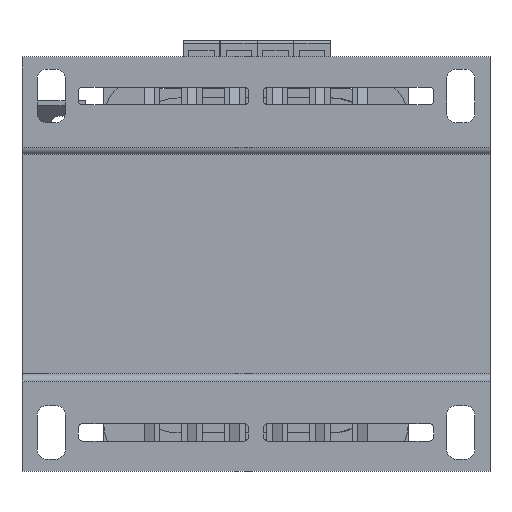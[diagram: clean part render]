
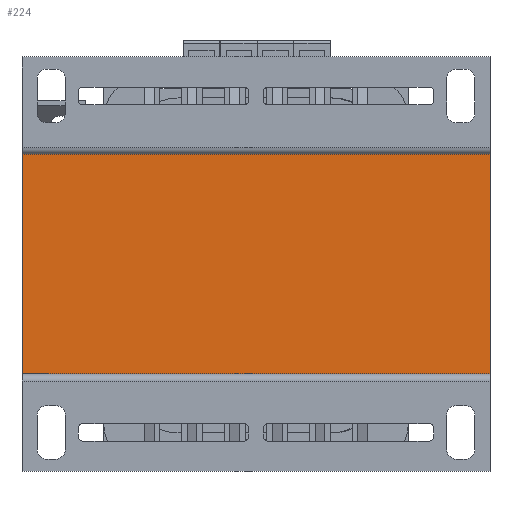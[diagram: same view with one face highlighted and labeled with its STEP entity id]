
A CAD part, front view. The second image highlights one B-rep face of the part: STEP entity #224.
In plain terms, the highlighted planar face has unit normal (0, -1, 0).
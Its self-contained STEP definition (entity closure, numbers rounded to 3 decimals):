
#108 = EDGE_CURVE('',#109,#111,#113,.T.);
#109 = VERTEX_POINT('',#110);
#110 = CARTESIAN_POINT('',(0.,0.,0.));
#111 = VERTEX_POINT('',#112);
#112 = CARTESIAN_POINT('',(0.,0.,45.));
#113 = SURFACE_CURVE('',#114,(#118,#130),.PCURVE_S1.);
#114 = LINE('',#115,#116);
#115 = CARTESIAN_POINT('',(0.,0.,0.));
#116 = VECTOR('',#117,1.);
#117 = DIRECTION('',(0.,0.,1.));
#118 = PCURVE('',#119,#124);
#119 = PLANE('',#120);
#120 = AXIS2_PLACEMENT_3D('',#121,#122,#123);
#121 = CARTESIAN_POINT('',(0.,0.,0.));
#122 = DIRECTION('',(1.,0.,0.));
#123 = DIRECTION('',(0.,0.,1.));
#124 = DEFINITIONAL_REPRESENTATION('',(#125),#129);
#125 = LINE('',#126,#127);
#126 = CARTESIAN_POINT('',(0.,0.));
#127 = VECTOR('',#128,1.);
#128 = DIRECTION('',(1.,0.));
#129 = ( GEOMETRIC_REPRESENTATION_CONTEXT(2) 
PARAMETRIC_REPRESENTATION_CONTEXT() REPRESENTATION_CONTEXT('2D SPACE',''
  ) );
#130 = PCURVE('',#131,#136);
#131 = PLANE('',#132);
#132 = AXIS2_PLACEMENT_3D('',#133,#134,#135);
#133 = CARTESIAN_POINT('',(0.,0.,0.));
#134 = DIRECTION('',(0.,1.,0.));
#135 = DIRECTION('',(0.,0.,1.));
#136 = DEFINITIONAL_REPRESENTATION('',(#137),#141);
#137 = LINE('',#138,#139);
#138 = CARTESIAN_POINT('',(0.,0.));
#139 = VECTOR('',#140,1.);
#140 = DIRECTION('',(1.,0.));
#141 = ( GEOMETRIC_REPRESENTATION_CONTEXT(2) 
PARAMETRIC_REPRESENTATION_CONTEXT() REPRESENTATION_CONTEXT('2D SPACE',''
  ) );
#159 = PLANE('',#160);
#160 = AXIS2_PLACEMENT_3D('',#161,#162,#163);
#161 = CARTESIAN_POINT('',(0.,0.,0.));
#162 = DIRECTION('',(0.,0.,1.));
#163 = DIRECTION('',(1.,0.,0.));
#213 = PLANE('',#214);
#214 = AXIS2_PLACEMENT_3D('',#215,#216,#217);
#215 = CARTESIAN_POINT('',(0.,0.,45.));
#216 = DIRECTION('',(0.,0.,1.));
#217 = DIRECTION('',(1.,0.,0.));
#224 = ADVANCED_FACE('',(#225),#131,.F.);
#225 = FACE_BOUND('',#226,.F.);
#226 = EDGE_LOOP('',(#227,#250,#251,#274));
#227 = ORIENTED_EDGE('',*,*,#228,.F.);
#228 = EDGE_CURVE('',#109,#229,#231,.T.);
#229 = VERTEX_POINT('',#230);
#230 = CARTESIAN_POINT('',(96.,0.,0.));
#231 = SURFACE_CURVE('',#232,(#236,#243),.PCURVE_S1.);
#232 = LINE('',#233,#234);
#233 = CARTESIAN_POINT('',(0.,0.,0.));
#234 = VECTOR('',#235,1.);
#235 = DIRECTION('',(1.,0.,0.));
#236 = PCURVE('',#131,#237);
#237 = DEFINITIONAL_REPRESENTATION('',(#238),#242);
#238 = LINE('',#239,#240);
#239 = CARTESIAN_POINT('',(0.,0.));
#240 = VECTOR('',#241,1.);
#241 = DIRECTION('',(0.,1.));
#242 = ( GEOMETRIC_REPRESENTATION_CONTEXT(2) 
PARAMETRIC_REPRESENTATION_CONTEXT() REPRESENTATION_CONTEXT('2D SPACE',''
  ) );
#243 = PCURVE('',#159,#244);
#244 = DEFINITIONAL_REPRESENTATION('',(#245),#249);
#245 = LINE('',#246,#247);
#246 = CARTESIAN_POINT('',(0.,0.));
#247 = VECTOR('',#248,1.);
#248 = DIRECTION('',(1.,0.));
#249 = ( GEOMETRIC_REPRESENTATION_CONTEXT(2) 
PARAMETRIC_REPRESENTATION_CONTEXT() REPRESENTATION_CONTEXT('2D SPACE',''
  ) );
#250 = ORIENTED_EDGE('',*,*,#108,.T.);
#251 = ORIENTED_EDGE('',*,*,#252,.T.);
#252 = EDGE_CURVE('',#111,#253,#255,.T.);
#253 = VERTEX_POINT('',#254);
#254 = CARTESIAN_POINT('',(96.,0.,45.));
#255 = SURFACE_CURVE('',#256,(#260,#267),.PCURVE_S1.);
#256 = LINE('',#257,#258);
#257 = CARTESIAN_POINT('',(0.,0.,45.));
#258 = VECTOR('',#259,1.);
#259 = DIRECTION('',(1.,0.,0.));
#260 = PCURVE('',#131,#261);
#261 = DEFINITIONAL_REPRESENTATION('',(#262),#266);
#262 = LINE('',#263,#264);
#263 = CARTESIAN_POINT('',(45.,0.));
#264 = VECTOR('',#265,1.);
#265 = DIRECTION('',(0.,1.));
#266 = ( GEOMETRIC_REPRESENTATION_CONTEXT(2) 
PARAMETRIC_REPRESENTATION_CONTEXT() REPRESENTATION_CONTEXT('2D SPACE',''
  ) );
#267 = PCURVE('',#213,#268);
#268 = DEFINITIONAL_REPRESENTATION('',(#269),#273);
#269 = LINE('',#270,#271);
#270 = CARTESIAN_POINT('',(0.,0.));
#271 = VECTOR('',#272,1.);
#272 = DIRECTION('',(1.,0.));
#273 = ( GEOMETRIC_REPRESENTATION_CONTEXT(2) 
PARAMETRIC_REPRESENTATION_CONTEXT() REPRESENTATION_CONTEXT('2D SPACE',''
  ) );
#274 = ORIENTED_EDGE('',*,*,#275,.F.);
#275 = EDGE_CURVE('',#229,#253,#276,.T.);
#276 = SURFACE_CURVE('',#277,(#281,#288),.PCURVE_S1.);
#277 = LINE('',#278,#279);
#278 = CARTESIAN_POINT('',(96.,0.,0.));
#279 = VECTOR('',#280,1.);
#280 = DIRECTION('',(0.,0.,1.));
#281 = PCURVE('',#131,#282);
#282 = DEFINITIONAL_REPRESENTATION('',(#283),#287);
#283 = LINE('',#284,#285);
#284 = CARTESIAN_POINT('',(0.,96.));
#285 = VECTOR('',#286,1.);
#286 = DIRECTION('',(1.,0.));
#287 = ( GEOMETRIC_REPRESENTATION_CONTEXT(2) 
PARAMETRIC_REPRESENTATION_CONTEXT() REPRESENTATION_CONTEXT('2D SPACE',''
  ) );
#288 = PCURVE('',#289,#294);
#289 = PLANE('',#290);
#290 = AXIS2_PLACEMENT_3D('',#291,#292,#293);
#291 = CARTESIAN_POINT('',(96.,0.,0.));
#292 = DIRECTION('',(1.,0.,0.));
#293 = DIRECTION('',(0.,0.,1.));
#294 = DEFINITIONAL_REPRESENTATION('',(#295),#299);
#295 = LINE('',#296,#297);
#296 = CARTESIAN_POINT('',(0.,0.));
#297 = VECTOR('',#298,1.);
#298 = DIRECTION('',(1.,0.));
#299 = ( GEOMETRIC_REPRESENTATION_CONTEXT(2) 
PARAMETRIC_REPRESENTATION_CONTEXT() REPRESENTATION_CONTEXT('2D SPACE',''
  ) );
